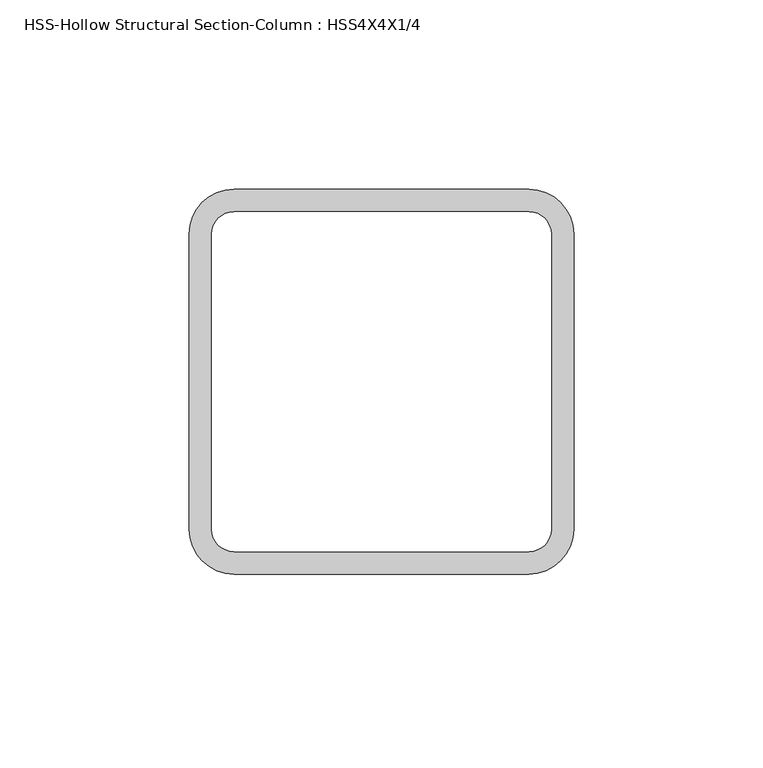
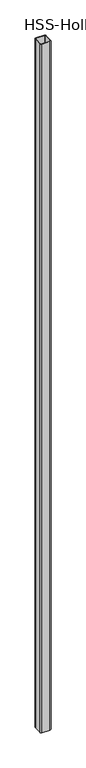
"""IFC4 building model written with IfcOpenShell, lengths in millimetres: column geometry, HSS-Hollow Structural Section-Column : HSS4X4X1/4."""

import ifcopenshell
import ifcopenshell.guid

model = None  # the IFC model being written
_history = None  # IfcOwnerHistory: only IFC2X3 demands one
_inside = {}  # id of a spatial element -> (the spatial element, [elements in it])
_under = {}  # id of a project, library or spatial element -> (it, [spatial elements below it])
_declared = {}  # id of a project -> (the project, [libraries it declares])
_typed = {}  # id of a type object -> (the type object, [elements of that type])
_made_of = {}  # id of a material, layer set ... -> (it, [elements and type objects made of it])


def new_model(schema):
    """Start an empty IFC model of exactly this schema.

    Asked for "IFC4X3", IfcOpenShell would pick the latest addendum, in which some entities
    have other attributes; the version numbers below select the first issue.
    IFC2X3 requires an IfcOwnerHistory on every rooted entity: one is made here for all.
    """
    global model, _history
    if schema == "IFC4X3":
        model = ifcopenshell.file(schema_version=(4, 3, 0, 0))
    else:
        model = ifcopenshell.file(schema=schema)
    _inside.clear()
    _under.clear()
    _declared.clear()
    _typed.clear()
    _made_of.clear()
    _history = None
    if model.schema == "IFC2X3":
        org = make("IfcOrganization", Name="unknown")
        user = make(
            "IfcPersonAndOrganization",
            ThePerson=make("IfcPerson", FamilyName="unknown"),
            TheOrganization=org,
        )
        app = make(
            "IfcApplication",
            ApplicationDeveloper=org,
            Version="unknown",
            ApplicationFullName="unknown",
            ApplicationIdentifier="unknown",
        )
        _history = make(
            "IfcOwnerHistory",
            OwningUser=user,
            OwningApplication=app,
            ChangeAction="ADDED",
            CreationDate=0,
        )
    return model


def make(cls, **values):
    """One entity of the class cls with the attributes given. An attribute that is None is left unset."""
    return model.create_entity(
        cls, **{name: value for name, value in values.items() if value is not None}
    )


def rooted(cls, **values):
    """An entity with a GlobalId (a new one), such as an element, a storey or a relation."""
    return make(cls, GlobalId=ifcopenshell.guid.new(), OwnerHistory=_history, **values)


def si_unit(unit_type, name, prefix=None):
    """IfcSIUnit, for example si_unit("LENGTHUNIT", "METRE", prefix="MILLI")."""
    return make("IfcSIUnit", UnitType=unit_type, Prefix=prefix, Name=name)


def assignment(units):
    """IfcUnitAssignment: the units of a project."""
    return None if units is None else make("IfcUnitAssignment", Units=units)


def point(xyz):
    """IfcCartesianPoint."""
    return None if xyz is None else make("IfcCartesianPoint", Coordinates=xyz)


def direction(xyz):
    """IfcDirection."""
    return None if xyz is None else make("IfcDirection", DirectionRatios=xyz)


def frame(location, z_axis=None, x_axis=None):
    """IfcAxis2Placement3D, a coordinate frame: its origin and axes. An axis left out is left unset."""
    return make(
        "IfcAxis2Placement3D",
        Location=point(location),
        Axis=direction(z_axis),
        RefDirection=direction(x_axis),
    )


def frame_2d(location, x_axis=None):
    """IfcAxis2Placement2D, a coordinate frame in the plane: its origin and x axis."""
    return make(
        "IfcAxis2Placement2D", Location=point(location), RefDirection=direction(x_axis)
    )


def origin():
    """The frame at (0, 0, 0) with its axes left unset."""
    return frame((0.0, 0.0, 0.0))


def origin_with_axes():
    """The frame at (0, 0, 0) with the z axis (0, 0, 1) and the x axis (1, 0, 0) written out."""
    return frame((0.0, 0.0, 0.0), z_axis=(0.0, 0.0, 1.0), x_axis=(1.0, 0.0, 0.0))


def place(relative_to, where):
    """IfcLocalPlacement: puts the frame where relative to a parent placement (None: the world)."""
    return make(
        "IfcLocalPlacement", PlacementRelTo=relative_to, RelativePlacement=where
    )


def context(
    kind, dimensions, precision=None, world=None, true_north=None, identifier=None
):
    """IfcGeometricRepresentationContext, for example the 3D "Model" context."""
    return make(
        "IfcGeometricRepresentationContext",
        ContextIdentifier=identifier,
        ContextType=kind,
        CoordinateSpaceDimension=dimensions,
        Precision=precision,
        WorldCoordinateSystem=world,
        TrueNorth=true_north,
    )


def project(units=None, contexts=None):
    """IfcProject with its units and contexts."""
    return rooted(
        "IfcProject",
        Name="project",
        RepresentationContexts=contexts,
        UnitsInContext=assignment(units),
    )


def spatial(cls, under=None, at=None, **own):
    """A site, building, storey or space (cls), placed at a placement, below another one or the project."""
    s = rooted(cls, ObjectPlacement=at, **own)
    if under is not None:
        _under.setdefault(under.id(), (under, []))[1].append(s)
    return s


def polyline(points):
    """IfcPolyline through the points."""
    return make("IfcPolyline", Points=[point(p) for p in points])


def circle_curve(where, radius):
    """IfcCircle in the frame where."""
    return make("IfcCircle", Position=where, Radius=radius)


def trimmed(basis, trim1, trim2, sense, master):
    """IfcTrimmedCurve: the piece of a basis curve between two trims."""
    return make(
        "IfcTrimmedCurve",
        BasisCurve=basis,
        Trim1=trim1,
        Trim2=trim2,
        SenseAgreement=sense,
        MasterRepresentation=master,
    )


def segment(curve, same_sense, transition):
    """IfcCompositeCurveSegment."""
    return make(
        "IfcCompositeCurveSegment",
        Transition=transition,
        SameSense=same_sense,
        ParentCurve=curve,
    )


def composite_curve(segments, self_intersect=None):
    """IfcCompositeCurve: segments joined end to end."""
    return make("IfcCompositeCurve", Segments=segments, SelfIntersect=self_intersect)


def outline(outer, holes=None, kind="AREA"):
    """IfcArbitraryClosedProfileDef: a profile drawn as a closed curve; with holes, ...WithVoids."""
    if holes is None:
        return make("IfcArbitraryClosedProfileDef", ProfileType=kind, OuterCurve=outer)
    return make(
        "IfcArbitraryProfileDefWithVoids",
        ProfileType=kind,
        OuterCurve=outer,
        InnerCurves=holes,
    )


def extrude(swept, where, along, depth):
    """IfcExtrudedAreaSolid: the profile swept, set in the frame where, extruded along a direction by depth."""
    return make(
        "IfcExtrudedAreaSolid",
        SweptArea=swept,
        Position=where,
        ExtrudedDirection=direction(along),
        Depth=depth,
    )


def shape(context_of_items, identifier, shape_type, items):
    """IfcShapeRepresentation: the items that make up one representation, for example the "Body"."""
    return make(
        "IfcShapeRepresentation",
        ContextOfItems=context_of_items,
        RepresentationIdentifier=identifier,
        RepresentationType=shape_type,
        Items=items,
    )


def source(mapping_origin, context_of_items, identifier, shape_type, items):
    """IfcRepresentationMap: a shape defined once, which mapped items show again and again."""
    return make(
        "IfcRepresentationMap",
        MappingOrigin=mapping_origin,
        MappedRepresentation=shape(context_of_items, identifier, shape_type, items),
    )


def transform(
    local_origin,
    x_axis=None,
    y_axis=None,
    z_axis=None,
    scale=None,
    scale2=None,
    scale3=None,
    uniform=True,
):
    """IfcCartesianTransformationOperator3D, or its non-uniform kind. x_axis, y_axis, z_axis: its Axis1, 2, 3."""
    if uniform:
        return make(
            "IfcCartesianTransformationOperator3D",
            Axis1=direction(x_axis),
            Axis2=direction(y_axis),
            LocalOrigin=point(local_origin),
            Scale=scale,
            Axis3=direction(z_axis),
        )
    return make(
        "IfcCartesianTransformationOperator3DnonUniform",
        Axis1=direction(x_axis),
        Axis2=direction(y_axis),
        LocalOrigin=point(local_origin),
        Scale=scale,
        Axis3=direction(z_axis),
        Scale2=scale2,
        Scale3=scale3,
    )


def mapped(mapping_source, mapping_target):
    """IfcMappedItem: shows the shape of a source again, moved by a transform."""
    return make(
        "IfcMappedItem", MappingSource=mapping_source, MappingTarget=mapping_target
    )


def made_of(thing, what):
    """Note that an element or type object is made of a material, layer set ...; save() writes the relation."""
    if what is not None:
        _made_of.setdefault(what.id(), (what, []))[1].append(thing)
    return thing


def element(
    cls,
    number,
    at=None,
    inside=None,
    cuts=None,
    type_object=None,
    material=None,
    context=None,
    identifier="Body",
    shape_type=None,
    held_by="IfcProductDefinitionShape",
    body=None,
    shapes=None,
    **own,
):
    """One element of the class cls, such as IfcWall. Its Tag is "e" and its number.

    at: its placement. inside: the storey or other place that contains it. cuts: it is an
    opening in that element (IfcRelVoidsElement). A single representation is given by context,
    identifier, shape_type and body (its items); several are given by shapes. held_by: the class
    of the entity that holds the representations. save() writes the other relations.
    """
    e = rooted(cls, Tag="e%d" % number, ObjectPlacement=at, **own)
    if body is not None:
        shapes = [shape(context, identifier, shape_type, body)]
    if shapes is not None:
        e.Representation = make(held_by, Representations=shapes)
    if inside is not None:
        _inside.setdefault(inside.id(), (inside, []))[1].append(e)
    if cuts is not None:
        rooted(
            "IfcRelVoidsElement", RelatingBuildingElement=cuts, RelatedOpeningElement=e
        )
    if type_object is not None:
        _typed.setdefault(type_object.id(), (type_object, []))[1].append(e)
    return made_of(e, material)


def aggregate(whole, parts):
    """IfcRelAggregates: a whole, such as a stair, and the parts it consists of."""
    return rooted("IfcRelAggregates", RelatingObject=whole, RelatedObjects=parts)


def save(model, path):
    """Write the relations noted so far, then the file.

    IfcRelAggregates (storeys below a building ...), IfcRelContainedInSpatialStructure (elements
    in a storey), IfcRelDefinesByType, IfcRelAssociatesMaterial and IfcRelDeclares: one each for
    every whole, place, type object, material and project.
    """
    for whole, parts in _under.values():
        aggregate(whole, parts)
    for where, things in _inside.values():
        rooted(
            "IfcRelContainedInSpatialStructure",
            RelatedElements=things,
            RelatingStructure=where,
        )
    for kind, things in _typed.values():
        rooted("IfcRelDefinesByType", RelatedObjects=things, RelatingType=kind)
    for what, things in _made_of.values():
        rooted("IfcRelAssociatesMaterial", RelatedObjects=things, RelatingMaterial=what)
    for by, libraries in _declared.values():
        rooted("IfcRelDeclares", RelatingContext=by, RelatedDefinitions=libraries)
    model.write(path)


def hss_hollow_structural_section_column_hss4x4x1_4_63ca78b6(model_context):
    return source(origin(), model_context, "Body", "SweptSolid", [
        extrude(outline(composite_curve([segment(trimmed(circle_curve(frame_2d((38.9636, 38.9636)), 11.8364), [point((38.9636, 50.8))], [point((50.8, 38.9636))], False, "CARTESIAN"), True, "CONTINUOUS"), segment(polyline([(50.8, 38.9636), (50.8, -38.9636)]), True, "CONTINUOUS"), segment(trimmed(circle_curve(frame_2d((38.9636, -38.9636)), 11.8364), [point((50.8, -38.9636))], [point((38.9636, -50.8))], False, "CARTESIAN"), True, "CONTINUOUS"), segment(polyline([(38.9636, -50.8), (-38.9636, -50.8)]), True, "CONTINUOUS"), segment(trimmed(circle_curve(frame_2d((-38.9636, -38.9636)), 11.8364), [point((-38.9636, -50.8))], [point((-50.8, -38.9636))], False, "CARTESIAN"), True, "CONTINUOUS"), segment(polyline([(-50.8, -38.9636), (-50.8, 38.9636)]), True, "CONTINUOUS"), segment(trimmed(circle_curve(frame_2d((-38.9636, 38.9636)), 11.8364), [point((-50.8, 38.9636))], [point((-38.9636, 50.8))], False, "CARTESIAN"), True, "CONTINUOUS"), segment(polyline([(-38.9636, 50.8), (38.9636, 50.8)]), True, "CONTINUOUS")], self_intersect=False), holes=[composite_curve([segment(polyline([(38.9636, 44.8818), (-38.9636, 44.8818)]), True, "CONTINUOUS"), segment(trimmed(circle_curve(frame_2d((-38.9636, 38.9636)), 5.9182), [point((-38.9636, 44.8818))], [point((-44.8818, 38.9636))], True, "CARTESIAN"), True, "CONTINUOUS"), segment(polyline([(-44.8818, 38.9636), (-44.8818, -38.9636)]), True, "CONTINUOUS"), segment(trimmed(circle_curve(frame_2d((-38.9636, -38.9636)), 5.9182), [point((-44.8818, -38.9636))], [point((-38.9636, -44.8818))], True, "CARTESIAN"), True, "CONTINUOUS"), segment(polyline([(-38.9636, -44.8818), (38.9636, -44.8818)]), True, "CONTINUOUS"), segment(trimmed(circle_curve(frame_2d((38.9636, -38.9636)), 5.9182), [point((38.9636, -44.8818))], [point((44.8818, -38.9636))], True, "CARTESIAN"), True, "CONTINUOUS"), segment(polyline([(44.8818, -38.9636), (44.8818, 38.9636)]), True, "CONTINUOUS"), segment(trimmed(circle_curve(frame_2d((38.9636, 38.9636)), 5.9182), [point((44.8818, 38.9636))], [point((38.9636, 44.8818))], True, "CARTESIAN"), True, "CONTINUOUS")], self_intersect=False)]), origin_with_axes(), (0.0, 0.0, 1.0), 7010.4),
    ])


if __name__ == "__main__":
    model = new_model("IFC4")
    model_context = context("Model", 3, world=origin())
    ifc_project = project(units=[si_unit("LENGTHUNIT", "METRE", prefix="MILLI")], contexts=[model_context])
    site = spatial("IfcSite", under=ifc_project)
    building = spatial("IfcBuilding", under=site)
    placement = place(None, origin())
    hss_hollow_structural_section_column_hss4x4x1_4_shape = hss_hollow_structural_section_column_hss4x4x1_4_63ca78b6(model_context)
    element("IfcColumn", 1, ObjectType="HSS-Hollow Structural Section-Column : HSS4X4X1/4", at=placement, inside=building, context=model_context, shape_type="MappedRepresentation", body=[
        mapped(hss_hollow_structural_section_column_hss4x4x1_4_shape, transform((0.0, 0.0, 0.0), x_axis=(1.0, 0.0, 0.0), y_axis=(0.0, 1.0, 0.0), z_axis=(0.0, 0.0, 1.0))),
    ])
    save(model, "model.ifc")
